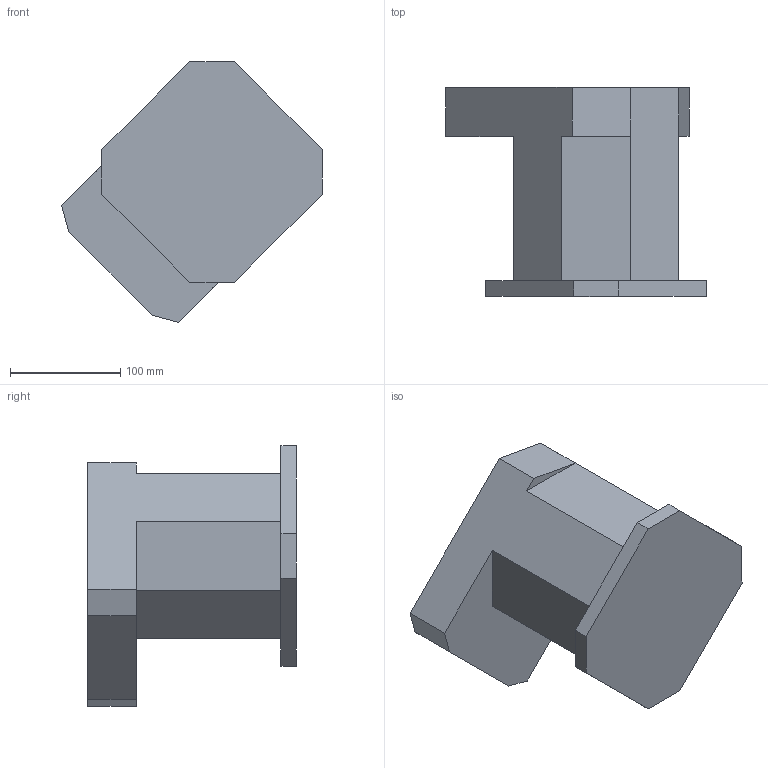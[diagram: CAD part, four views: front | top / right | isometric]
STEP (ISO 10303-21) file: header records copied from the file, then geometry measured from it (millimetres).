
FILE_DESCRIPTION (( 'STEP AP214' ), '1' );
FILE_NAME ('IRB4400_60_m2000_rev1_01-17.STEP', '2001-11-21T06:46:08', ( 'Jonas Eriksson' ), ( 'Evotech Engineering AB' ), 'SwSTEP 2.0', 'SolidWorks 2001287', '' );
FILE_SCHEMA (( 'AUTOMOTIVE_DESIGN' ));
Length unit declared in the file: millimetre
Products named in the file (1): IRB4400_60_m2000_rev1_01-17
Bounding box: 236.37 x 189.3 x 236.37 mm (x, y, z)
Volume: 4115637.1 mm3; surface area: 178083.5 mm2
Topology: 1 solids, 1 shells, 27 faces, 70 edges, 46 vertices
Faces by surface type: plane 27
Entity records: 831 total; most frequent: CARTESIAN_POINT 144, ORIENTED_EDGE 140, DIRECTION 126, LINE 70, VECTOR 70, EDGE_CURVE 70, VERTEX_POINT 46, AXIS2_PLACEMENT_3D 28
